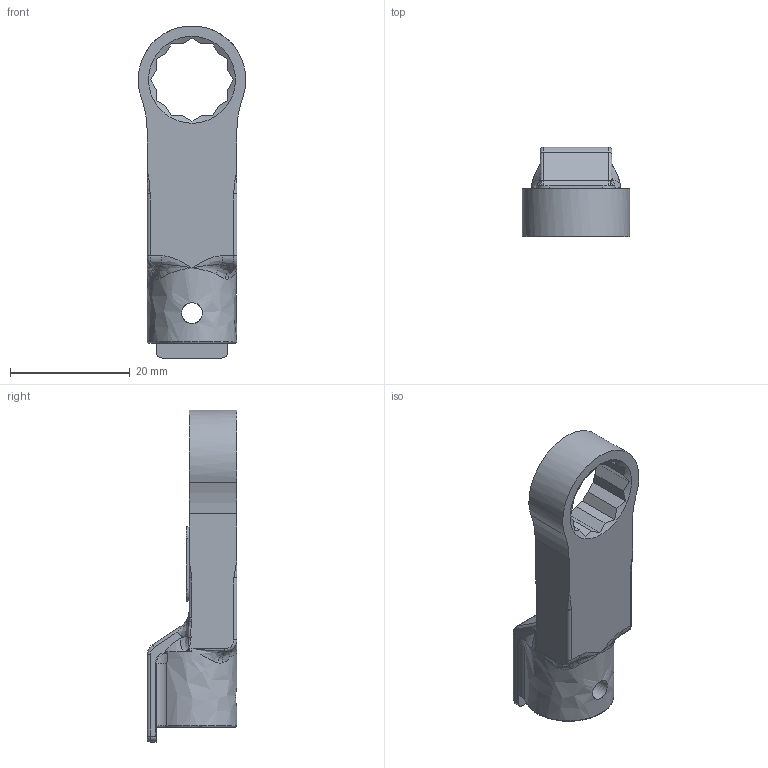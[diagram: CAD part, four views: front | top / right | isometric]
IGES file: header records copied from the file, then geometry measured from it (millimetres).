
Global section: file name: RH10DX12; native system: Autodesk Inventor 2016; preprocessor: unknown; author: Q600; date: 20151110.170634; units: millimetre
Bounding box: 17.99 x 15 x 55.49 mm (x, y, z)
Volume: 5442.9 mm3; surface area: 3381.3 mm2
Topology: 1 solids, 1 shells, 126 faces, 347 edges, 213 vertices
Faces by surface type: bspline 126
